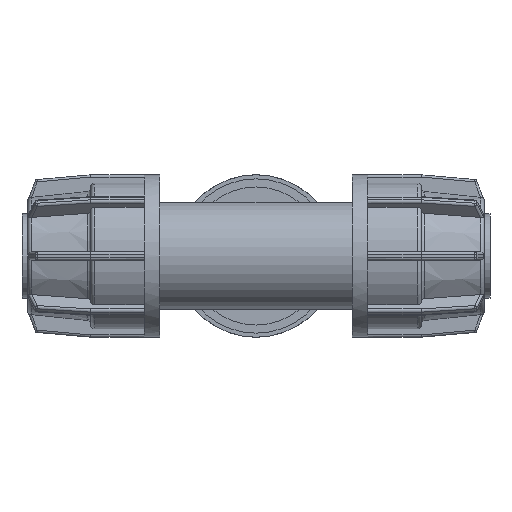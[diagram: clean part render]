
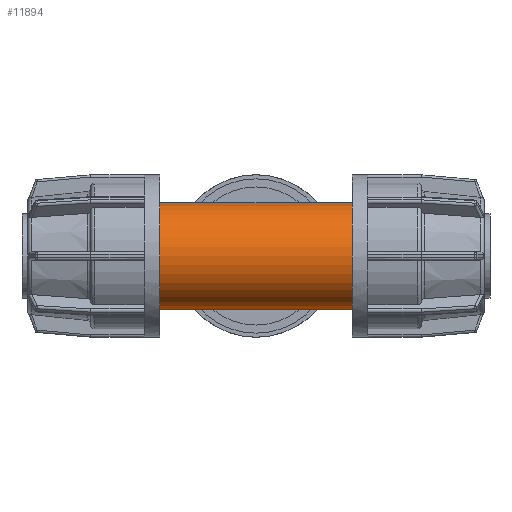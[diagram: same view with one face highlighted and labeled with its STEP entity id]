
A CAD part, front view. The second image highlights one B-rep face of the part: STEP entity #11894.
In plain terms, the highlighted cylindrical face has radius 11.2 mm (diameter 22.4 mm), a full revolution.
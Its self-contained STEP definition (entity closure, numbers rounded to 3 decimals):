
#17=ELLIPSE('',#13108,15.839,11.2);
#18=ELLIPSE('',#13109,15.839,11.2);
#2442=FACE_BOUND('',#3791,.T.);
#2443=FACE_BOUND('',#3792,.T.);
#2980=FACE_OUTER_BOUND('',#3790,.T.);
#3790=EDGE_LOOP('',(#9941));
#3791=EDGE_LOOP('',(#9942));
#3792=EDGE_LOOP('',(#9943,#9944));
#4070=CIRCLE('',#12162,11.2);
#4506=CIRCLE('',#13123,11.2);
#4727=VERTEX_POINT('',#17222);
#5417=VERTEX_POINT('',#21242);
#5418=VERTEX_POINT('',#21243);
#5423=VERTEX_POINT('',#21263);
#5772=EDGE_CURVE('',#4727,#4727,#4070,.T.);
#6957=EDGE_CURVE('',#5417,#5418,#17,.T.);
#6958=EDGE_CURVE('',#5417,#5418,#18,.T.);
#6964=EDGE_CURVE('',#5423,#5423,#4506,.T.);
#9941=ORIENTED_EDGE('',*,*,#5772,.T.);
#9942=ORIENTED_EDGE('',*,*,#6964,.T.);
#9943=ORIENTED_EDGE('',*,*,#6958,.T.);
#9944=ORIENTED_EDGE('',*,*,#6957,.F.);
#11293=CYLINDRICAL_SURFACE('',#13122,11.2);
#11894=ADVANCED_FACE('',(#2980,#2442,#2443),#11293,.T.);
#12162=AXIS2_PLACEMENT_3D('',#17223,#13613,#13614);
#13108=AXIS2_PLACEMENT_3D('',#21244,#15985,#15986);
#13109=AXIS2_PLACEMENT_3D('',#21245,#15987,#15988);
#13122=AXIS2_PLACEMENT_3D('',#21262,#16013,#16014);
#13123=AXIS2_PLACEMENT_3D('',#21264,#16015,#16016);
#13613=DIRECTION('center_axis',(1.,0.,0.));
#13614=DIRECTION('ref_axis',(0.,0.,-1.));
#15985=DIRECTION('center_axis',(0.707,0.707,0.));
#15986=DIRECTION('ref_axis',(0.707,-0.707,0.));
#15987=DIRECTION('center_axis',(0.707,-0.707,0.));
#15988=DIRECTION('ref_axis',(-0.707,-0.707,0.));
#16013=DIRECTION('center_axis',(1.,0.,0.));
#16014=DIRECTION('ref_axis',(0.,1.,0.));
#16015=DIRECTION('center_axis',(-1.,0.,0.));
#16016=DIRECTION('ref_axis',(0.,0.,-1.));
#17222=CARTESIAN_POINT('',(-29.,0.,11.2));
#17223=CARTESIAN_POINT('Origin',(-29.,0.,0.));
#21242=CARTESIAN_POINT('',(0.,0.,-11.2));
#21243=CARTESIAN_POINT('',(0.,0.,11.2));
#21244=CARTESIAN_POINT('Origin',(0.,0.,0.));
#21245=CARTESIAN_POINT('Origin',(0.,0.,0.));
#21262=CARTESIAN_POINT('Origin',(10.1,0.,0.));
#21263=CARTESIAN_POINT('',(29.,0.,11.2));
#21264=CARTESIAN_POINT('Origin',(29.,0.,0.));
